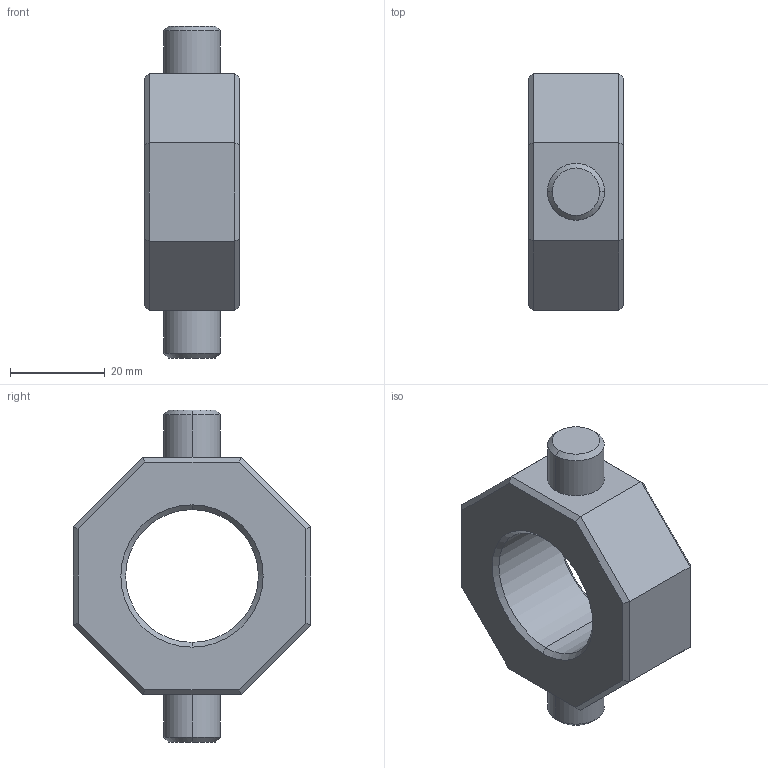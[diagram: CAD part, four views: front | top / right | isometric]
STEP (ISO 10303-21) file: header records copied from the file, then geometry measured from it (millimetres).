
FILE_DESCRIPTION (( 'STEP AP214' ), '1' );
FILE_NAME ('LB-KA-28.STEP', '2025-04-08T06:25:44', ( '' ), ( '' ), 'SwSTEP 2.0', 'SolidWorks 2023', '' );
FILE_SCHEMA (( 'AUTOMOTIVE_DESIGN' ));
Length unit declared in the file: millimetre
Products named in the file (1): LB-KA-28
Bounding box: 20 x 50 x 70 mm (x, y, z)
Volume: 29873.3 mm3; surface area: 9497.5 mm2
Topology: 1 solids, 1 shells, 78 faces, 174 edges, 94 vertices
Faces by surface type: cone 32, plane 28, cylinder 18
Entity records: 2053 total; most frequent: DIRECTION 376, CARTESIAN_POINT 335, ORIENTED_EDGE 324, EDGE_CURVE 162, AXIS2_PLACEMENT_3D 135, VECTOR 106, LINE 106, VERTEX_POINT 94
